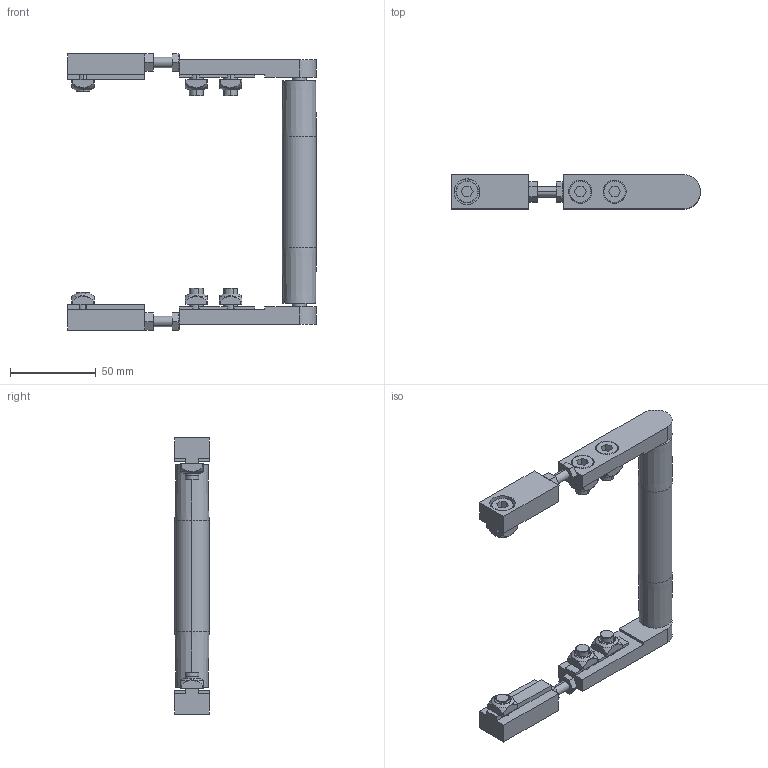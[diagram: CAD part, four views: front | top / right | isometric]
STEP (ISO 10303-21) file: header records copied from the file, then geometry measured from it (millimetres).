
FILE_DESCRIPTION (( 'STEP AP214' ), '1' );
FILE_NAME ('084.020.KI.110.STEP', '2021-02-05T13:53:21', ( '' ), ( '' ), 'SwSTEP 2.0', 'SolidWorks 2018', '' );
FILE_SCHEMA (( 'AUTOMOTIVE_DESIGN' ));
Length unit declared in the file: millimetre
Products named in the file (10): 084.800.002; 084.800.020.110; 084.302.000 DADI ALUSIC 13x13-1_084.302.004; 084.301.000 VITI ALUSIC_084.301.002; 084.020.KI.110; 084.802.008; 084.800.008; Circlip DIN 471 - 8 x 0.8_Circlip DIN 471 - 8 x 0.8; 084.800.012; 084.800.007
Assembly tree (27 placements, depth 2):
  084.020.KI.110
    084.802.008  x2
    084.301.000 VITI ALUSIC_084.301.002  x6
    084.302.000 DADI ALUSIC 13x13-1_084.302.004  x6
    084.800.020.110
    084.800.012  x4
    084.800.008  x2
    084.800.002  x2
    084.800.007  x2
    Circlip DIN 471 - 8 x 0.8_Circlip DIN 471 - 8 x 0.8  x2
Bounding box: 145 x 20 x 161 mm (x, y, z)
Volume: 84215.8 mm3; surface area: 55793.2 mm2
Topology: 31 solids, 31 shells, 664 faces, 1564 edges, 998 vertices
Faces by surface type: plane 262, cylinder 210, torus 112, cone 56, bspline 24
Entity records: 7452 total; most frequent: CARTESIAN_POINT 1561, DIRECTION 1208, ORIENTED_EDGE 1048, EDGE_CURVE 524, AXIS2_PLACEMENT_3D 474, VERTEX_POINT 337, LINE 260, VECTOR 260
